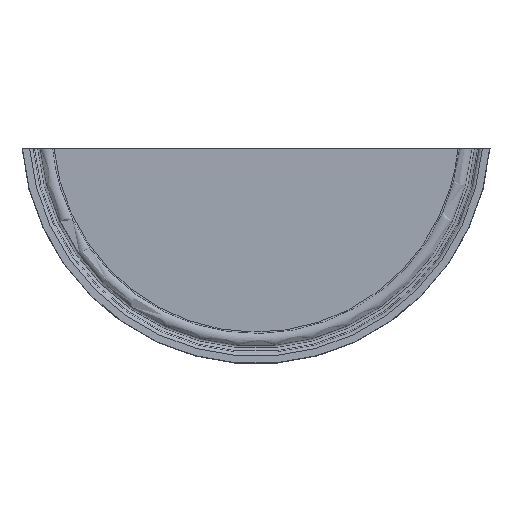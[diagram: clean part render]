
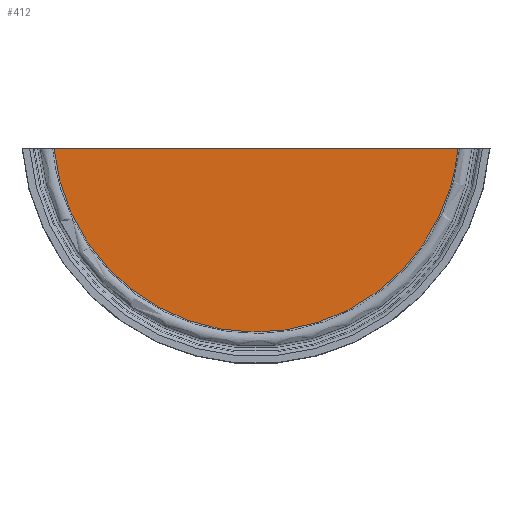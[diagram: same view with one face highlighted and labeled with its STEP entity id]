
A CAD part, top view. The second image highlights one B-rep face of the part: STEP entity #412.
In plain terms, the highlighted planar face has unit normal (0, 0, 1).
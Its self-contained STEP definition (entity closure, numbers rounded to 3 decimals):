
#89=B_SPLINE_CURVE_WITH_KNOTS('',3,(#1005,#1006,#1007,#1008,#1009,#1010,
#1011,#1012,#1013,#1014,#1015,#1016,#1017,#1018,#1019,#1020,#1021,#1022,
#1023,#1024,#1025,#1026,#1027,#1028,#1029,#1030,#1031,#1032,#1033,#1034,
#1035),.UNSPECIFIED.,.F.,.F.,(4,1,1,1,1,1,1,1,1,1,1,1,1,1,1,1,1,1,1,1,1,
1,1,1,1,1,1,1,4),(0.,0.008,0.015,0.031,
0.046,0.062,0.069,0.077,
0.085,0.092,0.1,0.108,
0.115,0.123,0.131,0.139,
0.146,0.154,0.169,0.177,
0.185,0.192,0.2,0.208,
0.216,0.223,0.231,0.239,
0.246),.UNSPECIFIED.);
#176=ORIENTED_EDGE('',*,*,#259,.F.);
#177=ORIENTED_EDGE('',*,*,#285,.T.);
#259=EDGE_CURVE('',#325,#326,#338,.T.);
#285=EDGE_CURVE('',#325,#326,#89,.T.);
#325=VERTEX_POINT('',#724);
#326=VERTEX_POINT('',#726);
#338=LINE('',#725,#346);
#346=VECTOR('',#486,1000.);
#360=EDGE_LOOP('',(#176,#177));
#384=FACE_BOUND('',#360,.T.);
#399=PLANE('',#462);
#412=ADVANCED_FACE('',(#384),#399,.F.);
#462=AXIS2_PLACEMENT_3D('',#1004,#532,#533);
#486=DIRECTION('',(1.,0.,0.));
#532=DIRECTION('',(0.,0.,-1.));
#533=DIRECTION('',(-1.,0.,0.));
#724=CARTESIAN_POINT('',(-82.636,-8.,0.628));
#725=CARTESIAN_POINT('',(41.523,-8.,0.628));
#726=CARTESIAN_POINT('',(82.636,-8.,0.628));
#1004=CARTESIAN_POINT('',(41.523,-8.,0.628));
#1005=CARTESIAN_POINT('',(-82.636,-8.,0.628));
#1006=CARTESIAN_POINT('',(-82.389,-10.559,0.628));
#1007=CARTESIAN_POINT('',(-81.658,-15.641,0.628));
#1008=CARTESIAN_POINT('',(-79.251,-25.643,0.628));
#1009=CARTESIAN_POINT('',(-74.64,-37.416,0.628));
#1010=CARTESIAN_POINT('',(-66.436,-50.57,0.628));
#1011=CARTESIAN_POINT('',(-57.896,-59.887,0.628));
#1012=CARTESIAN_POINT('',(-49.964,-66.454,0.628));
#1013=CARTESIAN_POINT('',(-43.651,-70.757,0.628));
#1014=CARTESIAN_POINT('',(-37.006,-74.449,0.628));
#1015=CARTESIAN_POINT('',(-30.019,-77.533,0.628));
#1016=CARTESIAN_POINT('',(-22.693,-79.984,0.628));
#1017=CARTESIAN_POINT('',(-15.283,-81.721,0.628));
#1018=CARTESIAN_POINT('',(-7.75,-82.777,0.628));
#1019=CARTESIAN_POINT('',(-0.089,-83.142,0.628));
#1020=CARTESIAN_POINT('',(7.643,-82.79,0.628));
#1021=CARTESIAN_POINT('',(15.229,-81.733,0.628));
#1022=CARTESIAN_POINT('',(22.701,-79.983,0.628));
#1023=CARTESIAN_POINT('',(32.453,-76.715,0.628));
#1024=CARTESIAN_POINT('',(41.505,-72.219,0.628));
#1025=CARTESIAN_POINT('',(49.987,-66.437,0.628));
#1026=CARTESIAN_POINT('',(55.896,-61.545,0.628));
#1027=CARTESIAN_POINT('',(61.284,-56.18,0.628));
#1028=CARTESIAN_POINT('',(66.17,-50.339,0.628));
#1029=CARTESIAN_POINT('',(70.559,-43.977,0.628));
#1030=CARTESIAN_POINT('',(74.29,-37.323,0.628));
#1031=CARTESIAN_POINT('',(77.389,-30.38,0.628));
#1032=CARTESIAN_POINT('',(79.856,-23.143,0.628));
#1033=CARTESIAN_POINT('',(81.66,-15.629,0.628));
#1034=CARTESIAN_POINT('',(82.389,-10.559,0.628));
#1035=CARTESIAN_POINT('',(82.636,-8.,0.628));
